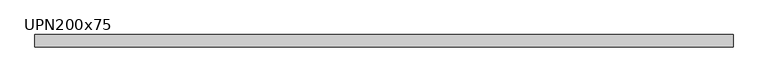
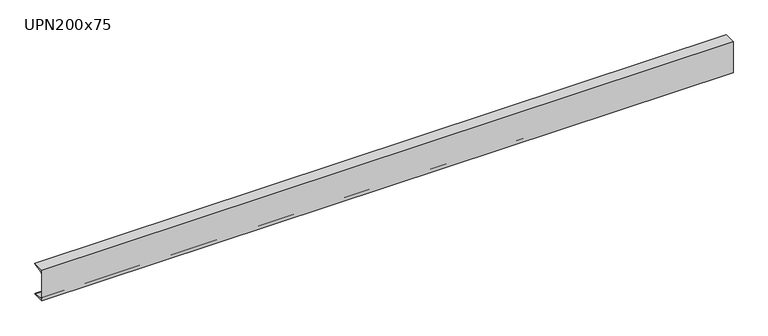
"""IFC4 building model written with IfcOpenShell, lengths in millimetres: beam geometry, M_MC Shapes : UPN200x75."""

from ifc_helpers import new_model, si_unit, point, frame, frame_2d, origin, place, context, project, spatial, polyline, circle_curve, trimmed, segment, composite_curve, outline, extrude, source, transform, mapped, element, save


def upn200x75_24fb99ba(model_context):
    return source(origin(), model_context, "Body", "SweptSolid", [
        extrude(outline(composite_curve([segment(polyline([(-10.9, 100.0), (64.1, 100.0), (64.1, 99.0253247)]), True, "CONTINUOUS"), segment(trimmed(circle_curve(frame_2d((60.15, 99.0253247)), 3.95), [point((64.1, 99.0253247))], [point((60.7993773, 95.1290689))], False, "CARTESIAN"), True, "CONTINUOUS"), segment(polyline([(60.7993773, 95.1290689), (0.2512455, 85.0376935)]), True, "CONTINUOUS"), segment(trimmed(circle_curve(frame_2d((1.55, 77.2451819)), 7.9), [point((0.2512455, 85.0376935))], [point((-6.35, 77.2451819))], True, "CARTESIAN"), True, "CONTINUOUS"), segment(polyline([(-6.35, 77.2451819), (-6.35, -77.2451819)]), True, "CONTINUOUS"), segment(trimmed(circle_curve(frame_2d((1.55, -77.2451819)), 7.9), [point((-6.35, -77.2451819))], [point((0.2512455, -85.0376935))], True, "CARTESIAN"), True, "CONTINUOUS"), segment(polyline([(0.2512455, -85.0376935), (60.7993773, -95.1290689)]), True, "CONTINUOUS"), segment(trimmed(circle_curve(frame_2d((60.15, -99.0253247)), 3.95), [point((60.7993773, -95.1290689))], [point((64.1, -99.0253247))], False, "CARTESIAN"), True, "CONTINUOUS"), segment(polyline([(64.1, -99.0253247), (64.1, -100.0), (-10.9, -100.0), (-10.9, 100.0)]), True, "CONTINUOUS")], self_intersect=False)), frame((-2131.65, 0.0, 0.0), z_axis=(1.0, 0.0, 0.0), x_axis=(0.0, 1.0, 0.0)), (0.0, 0.0, 1.0), 4263.3),
    ])


if __name__ == "__main__":
    model = new_model("IFC4")
    model_context = context("Model", 3, world=origin())
    ifc_project = project(units=[si_unit("LENGTHUNIT", "METRE", prefix="MILLI")], contexts=[model_context])
    site = spatial("IfcSite", under=ifc_project)
    building = spatial("IfcBuilding", under=site)
    placement = place(None, origin())
    upn200x75_shape = upn200x75_24fb99ba(model_context)
    element("IfcBeam", 1, ObjectType="M_MC Shapes : UPN200x75", at=placement, inside=building, context=model_context, shape_type="MappedRepresentation", body=[
        mapped(upn200x75_shape, transform((0.0, 0.0, 0.0), x_axis=(1.0, 0.0, 0.0), y_axis=(0.0, 1.0, 0.0), z_axis=(0.0, 0.0, 1.0))),
    ])
    save(model, "model.ifc")
